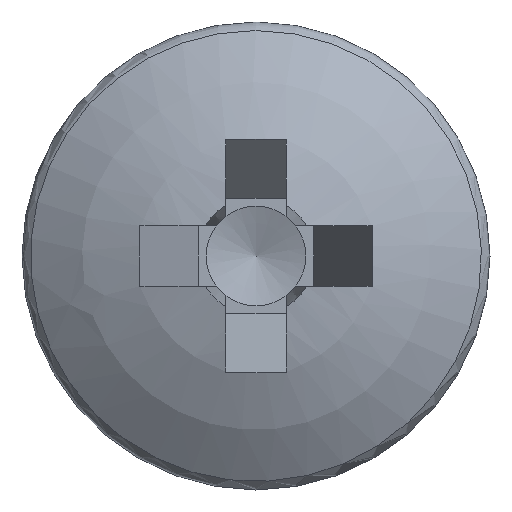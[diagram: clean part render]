
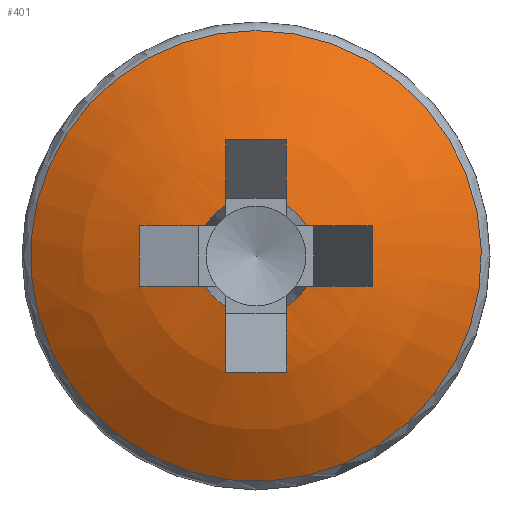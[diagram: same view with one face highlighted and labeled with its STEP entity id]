
A CAD part, left-side view. The second image highlights one B-rep face of the part: STEP entity #401.
In plain terms, the highlighted spherical face has radius 6.5 mm.
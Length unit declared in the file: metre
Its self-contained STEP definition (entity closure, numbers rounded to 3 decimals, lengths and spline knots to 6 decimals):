
#88=ORIENTED_EDGE('',*,*,#204,.T.);
#89=ORIENTED_EDGE('',*,*,#205,.F.);
#90=ORIENTED_EDGE('',*,*,#206,.F.);
#91=ORIENTED_EDGE('',*,*,#207,.T.);
#92=ORIENTED_EDGE('',*,*,#208,.F.);
#93=ORIENTED_EDGE('',*,*,#209,.F.);
#94=ORIENTED_EDGE('',*,*,#210,.F.);
#95=ORIENTED_EDGE('',*,*,#211,.T.);
#96=ORIENTED_EDGE('',*,*,#212,.F.);
#97=ORIENTED_EDGE('',*,*,#213,.F.);
#98=ORIENTED_EDGE('',*,*,#214,.F.);
#99=ORIENTED_EDGE('',*,*,#215,.T.);
#100=ORIENTED_EDGE('',*,*,#216,.F.);
#101=ORIENTED_EDGE('',*,*,#217,.F.);
#102=ORIENTED_EDGE('',*,*,#218,.F.);
#103=ORIENTED_EDGE('',*,*,#219,.T.);
#104=ORIENTED_EDGE('',*,*,#220,.F.);
#204=EDGE_CURVE('',#262,#262,#301,.T.);
#205=EDGE_CURVE('',#263,#264,#302,.F.);
#206=EDGE_CURVE('',#265,#263,#303,.T.);
#207=EDGE_CURVE('',#265,#266,#304,.T.);
#208=EDGE_CURVE('',#267,#266,#305,.T.);
#209=EDGE_CURVE('',#268,#267,#306,.F.);
#210=EDGE_CURVE('',#269,#268,#307,.T.);
#211=EDGE_CURVE('',#269,#270,#308,.T.);
#212=EDGE_CURVE('',#271,#270,#309,.T.);
#213=EDGE_CURVE('',#272,#271,#310,.F.);
#214=EDGE_CURVE('',#273,#272,#311,.T.);
#215=EDGE_CURVE('',#273,#274,#312,.T.);
#216=EDGE_CURVE('',#275,#274,#313,.T.);
#217=EDGE_CURVE('',#276,#275,#314,.F.);
#218=EDGE_CURVE('',#277,#276,#315,.T.);
#219=EDGE_CURVE('',#277,#278,#316,.T.);
#220=EDGE_CURVE('',#264,#278,#317,.T.);
#262=VERTEX_POINT('',#641);
#263=VERTEX_POINT('',#643);
#264=VERTEX_POINT('',#644);
#265=VERTEX_POINT('',#646);
#266=VERTEX_POINT('',#648);
#267=VERTEX_POINT('',#650);
#268=VERTEX_POINT('',#652);
#269=VERTEX_POINT('',#654);
#270=VERTEX_POINT('',#656);
#271=VERTEX_POINT('',#658);
#272=VERTEX_POINT('',#660);
#273=VERTEX_POINT('',#662);
#274=VERTEX_POINT('',#664);
#275=VERTEX_POINT('',#666);
#276=VERTEX_POINT('',#668);
#277=VERTEX_POINT('',#670);
#278=VERTEX_POINT('',#672);
#301=CIRCLE('',#443,0.003853);
#302=CIRCLE('',#444,0.001009);
#303=CIRCLE('',#445,0.00648);
#304=CIRCLE('',#446,0.006426);
#305=CIRCLE('',#447,0.00648);
#306=CIRCLE('',#448,0.001009);
#307=CIRCLE('',#449,0.00648);
#308=CIRCLE('',#450,0.006426);
#309=CIRCLE('',#451,0.00648);
#310=CIRCLE('',#452,0.001009);
#311=CIRCLE('',#453,0.00648);
#312=CIRCLE('',#454,0.006426);
#313=CIRCLE('',#455,0.00648);
#314=CIRCLE('',#456,0.001009);
#315=CIRCLE('',#457,0.00648);
#316=CIRCLE('',#458,0.006426);
#317=CIRCLE('',#459,0.00648);
#331=EDGE_LOOP('',(#88));
#332=EDGE_LOOP('',(#89,#90,#91,#92,#93,#94,#95,#96,#97,#98,#99,#100,#101,
#102,#103,#104));
#365=FACE_BOUND('',#331,.T.);
#366=FACE_BOUND('',#332,.T.);
#400=SPHERICAL_SURFACE('',#442,0.0065);
#401=ADVANCED_FACE('',(#365,#366),#400,.T.);
#442=AXIS2_PLACEMENT_3D('',#639,#502,#503);
#443=AXIS2_PLACEMENT_3D('',#640,#504,#505);
#444=AXIS2_PLACEMENT_3D('',#642,#506,#507);
#445=AXIS2_PLACEMENT_3D('',#645,#508,#509);
#446=AXIS2_PLACEMENT_3D('',#647,#510,#511);
#447=AXIS2_PLACEMENT_3D('',#649,#512,#513);
#448=AXIS2_PLACEMENT_3D('',#651,#514,#515);
#449=AXIS2_PLACEMENT_3D('',#653,#516,#517);
#450=AXIS2_PLACEMENT_3D('',#655,#518,#519);
#451=AXIS2_PLACEMENT_3D('',#657,#520,#521);
#452=AXIS2_PLACEMENT_3D('',#659,#522,#523);
#453=AXIS2_PLACEMENT_3D('',#661,#524,#525);
#454=AXIS2_PLACEMENT_3D('',#663,#526,#527);
#455=AXIS2_PLACEMENT_3D('',#665,#528,#529);
#456=AXIS2_PLACEMENT_3D('',#667,#530,#531);
#457=AXIS2_PLACEMENT_3D('',#669,#532,#533);
#458=AXIS2_PLACEMENT_3D('',#671,#534,#535);
#459=AXIS2_PLACEMENT_3D('',#673,#536,#537);
#502=DIRECTION('',(-1.,0.,0.));
#503=DIRECTION('',(0.,1.,0.));
#504=DIRECTION('',(-1.,0.,0.));
#505=DIRECTION('',(0.,0.,1.));
#506=DIRECTION('',(1.,0.,0.));
#507=DIRECTION('',(0.,0.,-1.));
#508=DIRECTION('',(0.,1.,0.));
#509=DIRECTION('',(0.,0.,1.));
#510=DIRECTION('',(0.446,0.,-0.895));
#511=DIRECTION('',(-0.895,0.,-0.446));
#512=DIRECTION('',(0.,-1.,0.));
#513=DIRECTION('',(0.,0.,-1.));
#514=DIRECTION('',(1.,0.,0.));
#515=DIRECTION('',(0.,0.,-1.));
#516=DIRECTION('',(0.,0.,1.));
#517=DIRECTION('',(1.,0.,0.));
#518=DIRECTION('',(0.446,0.895,0.));
#519=DIRECTION('',(-0.895,0.446,0.));
#520=DIRECTION('',(0.,0.,-1.));
#521=DIRECTION('',(0.,1.,0.));
#522=DIRECTION('',(1.,0.,0.));
#523=DIRECTION('',(0.,0.,-1.));
#524=DIRECTION('',(0.,-1.,0.));
#525=DIRECTION('',(0.,0.,-1.));
#526=DIRECTION('',(0.446,0.,0.895));
#527=DIRECTION('',(0.895,0.,-0.446));
#528=DIRECTION('',(0.,1.,0.));
#529=DIRECTION('',(0.,0.,1.));
#530=DIRECTION('',(1.,0.,0.));
#531=DIRECTION('',(0.,0.,-1.));
#532=DIRECTION('',(0.,0.,-1.));
#533=DIRECTION('',(0.,1.,0.));
#534=DIRECTION('',(0.446,-0.895,0.));
#535=DIRECTION('',(0.895,0.446,0.));
#536=DIRECTION('',(0.,0.,1.));
#537=DIRECTION('',(1.,0.,0.));
#639=CARTESIAN_POINT('',(0.0065,0.,0.));
#640=CARTESIAN_POINT('',(0.001265,0.,0.));
#641=CARTESIAN_POINT('',(0.001265,0.,0.003853));
#642=CARTESIAN_POINT('',(0.000079,0.,0.));
#643=CARTESIAN_POINT('',(0.000079,-0.000515,-0.000868));
#644=CARTESIAN_POINT('',(0.000079,-0.000868,-0.000515));
#645=CARTESIAN_POINT('',(0.0065,-0.000515,0.));
#646=CARTESIAN_POINT('',(0.000332,-0.000515,-0.001985));
#647=CARTESIAN_POINT('',(0.006064,0.,0.000874));
#648=CARTESIAN_POINT('',(0.000332,0.000515,-0.001985));
#649=CARTESIAN_POINT('',(0.0065,0.000515,0.));
#650=CARTESIAN_POINT('',(0.000079,0.000515,-0.000868));
#651=CARTESIAN_POINT('',(0.000079,0.,0.));
#652=CARTESIAN_POINT('',(0.000079,0.000868,-0.000515));
#653=CARTESIAN_POINT('',(0.0065,0.,-0.000515));
#654=CARTESIAN_POINT('',(0.000332,0.001985,-0.000515));
#655=CARTESIAN_POINT('',(0.006064,-0.000874,0.));
#656=CARTESIAN_POINT('',(0.000332,0.001985,0.000515));
#657=CARTESIAN_POINT('',(0.0065,0.,0.000515));
#658=CARTESIAN_POINT('',(0.000079,0.000868,0.000515));
#659=CARTESIAN_POINT('',(0.000079,0.,0.));
#660=CARTESIAN_POINT('',(0.000079,0.000515,0.000868));
#661=CARTESIAN_POINT('',(0.0065,0.000515,0.));
#662=CARTESIAN_POINT('',(0.000332,0.000515,0.001985));
#663=CARTESIAN_POINT('',(0.006064,0.,-0.000874));
#664=CARTESIAN_POINT('',(0.000332,-0.000515,0.001985));
#665=CARTESIAN_POINT('',(0.0065,-0.000515,0.));
#666=CARTESIAN_POINT('',(0.000079,-0.000515,0.000868));
#667=CARTESIAN_POINT('',(0.000079,0.,0.));
#668=CARTESIAN_POINT('',(0.000079,-0.000868,0.000515));
#669=CARTESIAN_POINT('',(0.0065,0.,0.000515));
#670=CARTESIAN_POINT('',(0.000332,-0.001985,0.000515));
#671=CARTESIAN_POINT('',(0.006064,0.000874,0.));
#672=CARTESIAN_POINT('',(0.000332,-0.001985,-0.000515));
#673=CARTESIAN_POINT('',(0.0065,0.,-0.000515));
